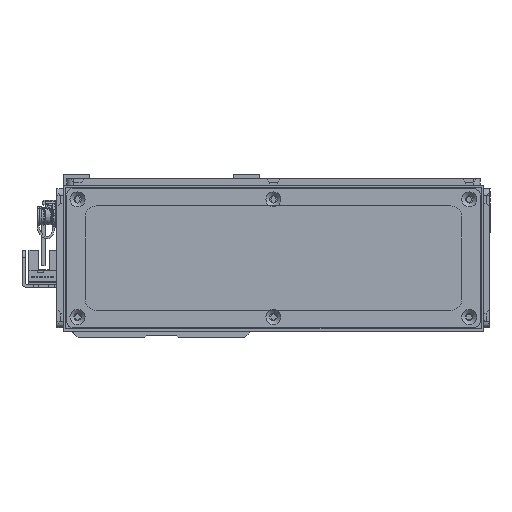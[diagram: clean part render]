
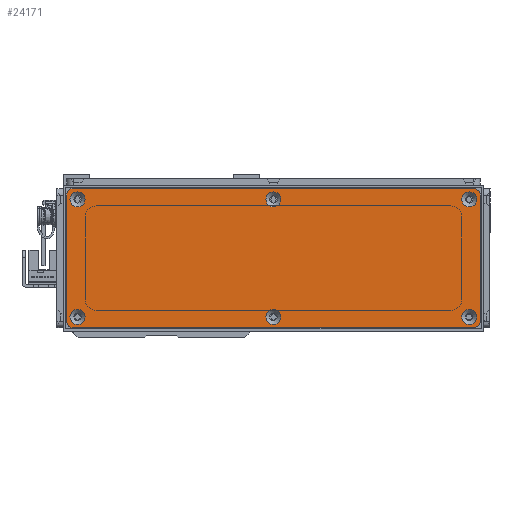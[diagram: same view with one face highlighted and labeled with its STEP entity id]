
A CAD part, left-side view. The second image highlights one B-rep face of the part: STEP entity #24171.
In plain terms, the highlighted planar face has unit normal (-1, 0, 0) as drawn and (0, 0, 1) by its records, which use the part's own axes.
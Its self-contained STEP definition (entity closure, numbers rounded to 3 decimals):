
#1129=FACE_BOUND('',#4499,.T.);
#1130=FACE_BOUND('',#4500,.T.);
#1131=FACE_BOUND('',#4501,.T.);
#1132=FACE_BOUND('',#4502,.T.);
#1133=FACE_BOUND('',#4503,.T.);
#1134=FACE_BOUND('',#4504,.T.);
#1650=PLANE('',#26941);
#2811=FACE_OUTER_BOUND('',#4498,.T.);
#4498=EDGE_LOOP('',(#20945,#20946,#20947,#20948,#20949,#20950,#20951,#20952));
#4499=EDGE_LOOP('',(#20953));
#4500=EDGE_LOOP('',(#20954));
#4501=EDGE_LOOP('',(#20955));
#4502=EDGE_LOOP('',(#20956));
#4503=EDGE_LOOP('',(#20957));
#4504=EDGE_LOOP('',(#20958));
#6384=LINE('',#40961,#8350);
#6387=LINE('',#40969,#8353);
#6390=LINE('',#40977,#8356);
#6393=LINE('',#40984,#8359);
#8350=VECTOR('',#33107,10.);
#8353=VECTOR('',#33116,10.);
#8356=VECTOR('',#33125,10.);
#8359=VECTOR('',#33134,10.);
#9835=CIRCLE('',#26895,3.45);
#9838=CIRCLE('',#26900,3.45);
#9841=CIRCLE('',#26905,3.45);
#9844=CIRCLE('',#26910,3.45);
#9847=CIRCLE('',#26915,3.45);
#9850=CIRCLE('',#26920,3.45);
#9857=CIRCLE('',#26930,3.);
#9858=CIRCLE('',#26933,3.);
#9859=CIRCLE('',#26936,3.);
#9860=CIRCLE('',#26939,3.);
#11808=VERTEX_POINT('',#40877);
#11811=VERTEX_POINT('',#40887);
#11814=VERTEX_POINT('',#40897);
#11817=VERTEX_POINT('',#40907);
#11820=VERTEX_POINT('',#40917);
#11823=VERTEX_POINT('',#40927);
#11834=VERTEX_POINT('',#40954);
#11835=VERTEX_POINT('',#40956);
#11836=VERTEX_POINT('',#40960);
#11837=VERTEX_POINT('',#40964);
#11838=VERTEX_POINT('',#40968);
#11839=VERTEX_POINT('',#40972);
#11840=VERTEX_POINT('',#40976);
#11841=VERTEX_POINT('',#40980);
#14916=EDGE_CURVE('',#11808,#11808,#9835,.T.);
#14921=EDGE_CURVE('',#11811,#11811,#9838,.T.);
#14926=EDGE_CURVE('',#11814,#11814,#9841,.T.);
#14931=EDGE_CURVE('',#11817,#11817,#9844,.T.);
#14936=EDGE_CURVE('',#11820,#11820,#9847,.T.);
#14941=EDGE_CURVE('',#11823,#11823,#9850,.T.);
#14955=EDGE_CURVE('',#11835,#11834,#9857,.T.);
#14957=EDGE_CURVE('',#11836,#11835,#6384,.T.);
#14959=EDGE_CURVE('',#11837,#11836,#9858,.T.);
#14961=EDGE_CURVE('',#11838,#11837,#6387,.T.);
#14963=EDGE_CURVE('',#11839,#11838,#9859,.T.);
#14965=EDGE_CURVE('',#11840,#11839,#6390,.T.);
#14967=EDGE_CURVE('',#11841,#11840,#9860,.T.);
#14969=EDGE_CURVE('',#11834,#11841,#6393,.T.);
#20945=ORIENTED_EDGE('',*,*,#14969,.T.);
#20946=ORIENTED_EDGE('',*,*,#14967,.T.);
#20947=ORIENTED_EDGE('',*,*,#14965,.T.);
#20948=ORIENTED_EDGE('',*,*,#14963,.T.);
#20949=ORIENTED_EDGE('',*,*,#14961,.T.);
#20950=ORIENTED_EDGE('',*,*,#14959,.T.);
#20951=ORIENTED_EDGE('',*,*,#14957,.T.);
#20952=ORIENTED_EDGE('',*,*,#14955,.T.);
#20953=ORIENTED_EDGE('',*,*,#14916,.T.);
#20954=ORIENTED_EDGE('',*,*,#14921,.T.);
#20955=ORIENTED_EDGE('',*,*,#14926,.T.);
#20956=ORIENTED_EDGE('',*,*,#14931,.T.);
#20957=ORIENTED_EDGE('',*,*,#14936,.T.);
#20958=ORIENTED_EDGE('',*,*,#14941,.T.);
#24171=ADVANCED_FACE('',(#2811,#1129,#1130,#1131,#1132,#1133,#1134),#1650,
 .T.);
#26895=AXIS2_PLACEMENT_3D('',#40878,#33015,#33016);
#26900=AXIS2_PLACEMENT_3D('',#40888,#33027,#33028);
#26905=AXIS2_PLACEMENT_3D('',#40898,#33039,#33040);
#26910=AXIS2_PLACEMENT_3D('',#40908,#33051,#33052);
#26915=AXIS2_PLACEMENT_3D('',#40918,#33063,#33064);
#26920=AXIS2_PLACEMENT_3D('',#40928,#33075,#33076);
#26930=AXIS2_PLACEMENT_3D('',#40957,#33102,#33103);
#26933=AXIS2_PLACEMENT_3D('',#40965,#33111,#33112);
#26936=AXIS2_PLACEMENT_3D('',#40973,#33120,#33121);
#26939=AXIS2_PLACEMENT_3D('',#40981,#33129,#33130);
#26941=AXIS2_PLACEMENT_3D('',#40985,#33135,#33136);
#33015=DIRECTION('center_axis',(0.,0.,-1.));
#33016=DIRECTION('ref_axis',(1.,0.,0.));
#33027=DIRECTION('center_axis',(0.,0.,-1.));
#33028=DIRECTION('ref_axis',(1.,0.,0.));
#33039=DIRECTION('center_axis',(0.,0.,-1.));
#33040=DIRECTION('ref_axis',(1.,0.,0.));
#33051=DIRECTION('center_axis',(0.,0.,-1.));
#33052=DIRECTION('ref_axis',(1.,0.,0.));
#33063=DIRECTION('center_axis',(0.,0.,-1.));
#33064=DIRECTION('ref_axis',(1.,0.,0.));
#33075=DIRECTION('center_axis',(0.,0.,-1.));
#33076=DIRECTION('ref_axis',(1.,0.,0.));
#33102=DIRECTION('center_axis',(0.,0.,1.));
#33103=DIRECTION('ref_axis',(0.,1.,0.));
#33107=DIRECTION('',(-1.,0.,0.));
#33111=DIRECTION('center_axis',(0.,0.,1.));
#33112=DIRECTION('ref_axis',(1.,0.,0.));
#33116=DIRECTION('',(0.,1.,0.));
#33120=DIRECTION('center_axis',(0.,0.,1.));
#33121=DIRECTION('ref_axis',(0.,-1.,0.));
#33125=DIRECTION('',(1.,0.,0.));
#33129=DIRECTION('center_axis',(0.,0.,1.));
#33130=DIRECTION('ref_axis',(-1.,0.,0.));
#33134=DIRECTION('',(0.,-1.,0.));
#33135=DIRECTION('center_axis',(0.,0.,1.));
#33136=DIRECTION('ref_axis',(1.,0.,0.));
#40877=CARTESIAN_POINT('',(-3.45,27.,1.5));
#40878=CARTESIAN_POINT('Origin',(0.,27.,1.5));
#40887=CARTESIAN_POINT('',(86.55,-27.,1.5));
#40888=CARTESIAN_POINT('Origin',(90.,-27.,1.5));
#40897=CARTESIAN_POINT('',(-93.45,27.,1.5));
#40898=CARTESIAN_POINT('Origin',(-90.,27.,1.5));
#40907=CARTESIAN_POINT('',(86.55,27.,1.5));
#40908=CARTESIAN_POINT('Origin',(90.,27.,1.5));
#40917=CARTESIAN_POINT('',(-93.45,-27.,1.5));
#40918=CARTESIAN_POINT('Origin',(-90.,-27.,1.5));
#40927=CARTESIAN_POINT('',(-3.45,-27.,1.5));
#40928=CARTESIAN_POINT('Origin',(0.,-27.,1.5));
#40954=CARTESIAN_POINT('',(-95.,29.,1.5));
#40956=CARTESIAN_POINT('',(-92.,32.,1.5));
#40957=CARTESIAN_POINT('Origin',(-92.,29.,1.5));
#40960=CARTESIAN_POINT('',(92.,32.,1.5));
#40961=CARTESIAN_POINT('',(92.,32.,1.5));
#40964=CARTESIAN_POINT('',(95.,29.,1.5));
#40965=CARTESIAN_POINT('Origin',(92.,29.,1.5));
#40968=CARTESIAN_POINT('',(95.,-29.,1.5));
#40969=CARTESIAN_POINT('',(95.,-29.,1.5));
#40972=CARTESIAN_POINT('',(92.,-32.,1.5));
#40973=CARTESIAN_POINT('Origin',(92.,-29.,1.5));
#40976=CARTESIAN_POINT('',(-92.,-32.,1.5));
#40977=CARTESIAN_POINT('',(-92.,-32.,1.5));
#40980=CARTESIAN_POINT('',(-95.,-29.,1.5));
#40981=CARTESIAN_POINT('Origin',(-92.,-29.,1.5));
#40984=CARTESIAN_POINT('',(-95.,29.,1.5));
#40985=CARTESIAN_POINT('Origin',(0.,0.,
1.5));
